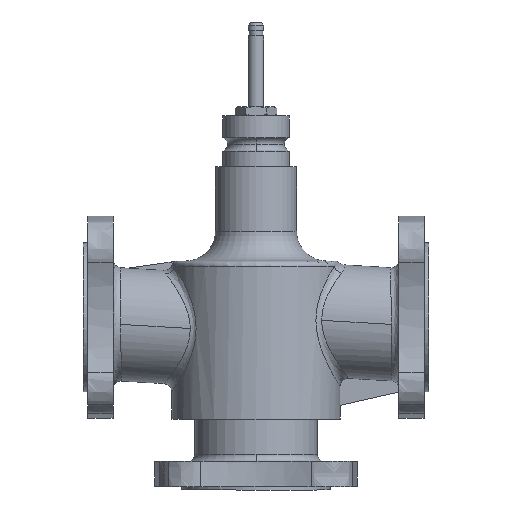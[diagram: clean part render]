
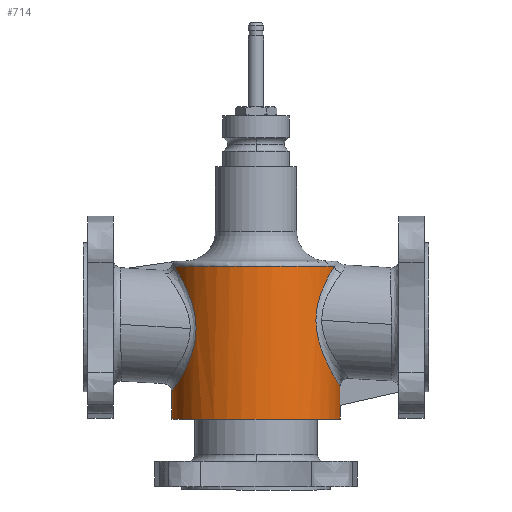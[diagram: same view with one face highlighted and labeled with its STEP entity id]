
A CAD part, front view. The second image highlights one B-rep face of the part: STEP entity #714.
In plain terms, the highlighted cylindrical face has radius 55.986 mm (diameter 111.973 mm), a partial arc.
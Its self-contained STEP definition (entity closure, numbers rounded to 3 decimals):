
#134=CYLINDRICAL_SURFACE('',#3290,55.986);
#206=FACE_OUTER_BOUND('',#1176,.T.);
#383=LINE('',#5072,#539);
#384=LINE('',#5076,#540);
#385=LINE('',#5165,#541);
#539=VECTOR('',#3715,1.);
#540=VECTOR('',#3718,1.);
#541=VECTOR('',#3735,1.);
#714=ADVANCED_FACE('',(#206),#134,.T.);
#992=B_SPLINE_CURVE_WITH_KNOTS('',3,(#5123,#5124,#5125,#5126,#5127,#5128,
#5129,#5130,#5131,#5132,#5133,#5134,#5135,#5136,#5137,#5138,#5139,#5140),
 .UNSPECIFIED.,.F.,.F.,(4,2,2,2,2,2,2,2,4),(0.,0.125,0.25,0.375,0.5,0.625,
0.75,0.875,1.),.UNSPECIFIED.);
#993=B_SPLINE_CURVE_WITH_KNOTS('',3,(#5142,#5143,#5144,#5145,#5146,#5147,
#5148,#5149,#5150,#5151,#5152,#5153,#5154,#5155,#5156,#5157,#5158,#5159,
#5160,#5161),.UNSPECIFIED.,.F.,.F.,(4,2,2,2,2,2,2,2,2,4),(0.,0.082,
0.2,0.338,0.479,0.567,
0.654,0.751,0.905,1.),.UNSPECIFIED.);
#1059=ELLIPSE('',#3289,57.388,55.986);
#1176=EDGE_LOOP('',(#1555,#1556,#1557,#1558,#1559,#1560,#1561,#1562));
#1555=ORIENTED_EDGE('',*,*,#2751,.F.);
#1556=ORIENTED_EDGE('',*,*,#2747,.F.);
#1557=ORIENTED_EDGE('',*,*,#2752,.F.);
#1558=ORIENTED_EDGE('',*,*,#2742,.F.);
#1559=ORIENTED_EDGE('',*,*,#2753,.F.);
#1560=ORIENTED_EDGE('',*,*,#2740,.F.);
#1561=ORIENTED_EDGE('',*,*,#2754,.T.);
#1562=ORIENTED_EDGE('',*,*,#2755,.T.);
#2424=VERTEX_POINT('',#5044);
#2428=VERTEX_POINT('',#5071);
#2429=VERTEX_POINT('',#5073);
#2430=VERTEX_POINT('',#5075);
#2435=VERTEX_POINT('',#5103);
#2436=VERTEX_POINT('',#5105);
#2439=VERTEX_POINT('',#5141);
#2440=VERTEX_POINT('',#5164);
#2740=EDGE_CURVE('',#2428,#2429,#383,.T.);
#2742=EDGE_CURVE('',#2430,#2424,#384,.T.);
#2747=EDGE_CURVE('',#2435,#2436,#3098,.T.);
#2751=EDGE_CURVE('',#2436,#2439,#992,.T.);
#2752=EDGE_CURVE('',#2424,#2435,#993,.T.);
#2753=EDGE_CURVE('',#2429,#2430,#3101,.T.);
#2754=EDGE_CURVE('',#2428,#2440,#1059,.T.);
#2755=EDGE_CURVE('',#2440,#2439,#385,.T.);
#3098=CIRCLE('',#3284,55.986);
#3101=CIRCLE('',#3288,55.986);
#3284=AXIS2_PLACEMENT_3D('',#5104,#3723,#3724);
#3288=AXIS2_PLACEMENT_3D('',#5162,#3731,#3732);
#3289=AXIS2_PLACEMENT_3D('',#5163,#3733,#3734);
#3290=AXIS2_PLACEMENT_3D('',#5166,#3736,#3737);
#3715=DIRECTION('',(0.,0.,-1.));
#3718=DIRECTION('',(0.,0.,1.));
#3723=DIRECTION('',(0.,0.,1.));
#3724=DIRECTION('',(1.,0.,0.));
#3731=DIRECTION('',(0.,0.,-1.));
#3732=DIRECTION('',(0.,-1.,0.));
#3733=DIRECTION('',(0.22,0.,-0.976));
#3734=DIRECTION('',(-0.976,0.,-0.22));
#3735=DIRECTION('',(0.,0.,1.));
#3736=DIRECTION('',(0.,0.,1.));
#3737=DIRECTION('',(1.,0.,0.));
#5044=CARTESIAN_POINT('',(-285.986,0.,-49.688));
#5071=CARTESIAN_POINT('',(-174.014,0.,-58.616));
#5072=CARTESIAN_POINT('',(-174.014,0.,-58.616));
#5073=CARTESIAN_POINT('',(-174.014,0.,-67.779));
#5075=CARTESIAN_POINT('',(-285.986,0.,-67.779));
#5076=CARTESIAN_POINT('',(-285.986,0.,-64.779));
#5103=CARTESIAN_POINT('',(-284.349,-13.44,34.074));
#5104=CARTESIAN_POINT('',(-230.,0.,34.074));
#5105=CARTESIAN_POINT('',(-177.89,-20.471,34.074));
#5123=CARTESIAN_POINT('',(-177.893,-20.47,34.074));
#5124=CARTESIAN_POINT('',(-179.279,-23.987,31.803));
#5125=CARTESIAN_POINT('',(-180.92,-27.114,28.974));
#5126=CARTESIAN_POINT('',(-184.23,-32.394,22.458));
#5127=CARTESIAN_POINT('',(-185.93,-34.594,18.71));
#5128=CARTESIAN_POINT('',(-188.673,-37.829,10.448));
#5129=CARTESIAN_POINT('',(-189.709,-38.874,5.865));
#5130=CARTESIAN_POINT('',(-190.331,-39.512,-3.554));
#5131=CARTESIAN_POINT('',(-189.902,-39.098,-8.376));
#5132=CARTESIAN_POINT('',(-187.998,-37.043,-17.327));
#5133=CARTESIAN_POINT('',(-186.56,-35.416,-21.513));
#5134=CARTESIAN_POINT('',(-183.462,-31.23,-29.081));
#5135=CARTESIAN_POINT('',(-181.787,-28.654,-32.499));
#5136=CARTESIAN_POINT('',(-178.686,-22.646,-38.388));
#5137=CARTESIAN_POINT('',(-177.263,-19.191,-40.876));
#5138=CARTESIAN_POINT('',(-175.08,-11.554,-44.591));
#5139=CARTESIAN_POINT('',(-174.336,-7.378,-45.797));
#5140=CARTESIAN_POINT('',(-174.11,-3.1,-46.172));
#5141=CARTESIAN_POINT('',(-174.1,-3.102,-46.183));
#5142=CARTESIAN_POINT('',(-285.986,0.,-49.688));
#5143=CARTESIAN_POINT('',(-285.986,-3.102,-49.688));
#5144=CARTESIAN_POINT('',(-285.724,-6.207,-49.296));
#5145=CARTESIAN_POINT('',(-284.5,-13.554,-47.43));
#5146=CARTESIAN_POINT('',(-283.281,-17.637,-45.556));
#5147=CARTESIAN_POINT('',(-280.054,-25.494,-40.202));
#5148=CARTESIAN_POINT('',(-277.954,-29.109,-36.535));
#5149=CARTESIAN_POINT('',(-273.88,-34.957,-27.774));
#5150=CARTESIAN_POINT('',(-271.919,-37.147,-22.665));
#5151=CARTESIAN_POINT('',(-270.117,-39.066,-13.46));
#5152=CARTESIAN_POINT('',(-269.787,-39.389,-9.784));
#5153=CARTESIAN_POINT('',(-269.999,-39.174,-2.422));
#5154=CARTESIAN_POINT('',(-270.536,-38.636,1.212));
#5155=CARTESIAN_POINT('',(-272.242,-36.767,8.418));
#5156=CARTESIAN_POINT('',(-273.472,-35.347,11.999));
#5157=CARTESIAN_POINT('',(-276.88,-30.805,20.456));
#5158=CARTESIAN_POINT('',(-279.257,-27.059,25.044));
#5159=CARTESIAN_POINT('',(-282.441,-19.833,30.83));
#5160=CARTESIAN_POINT('',(-283.52,-16.748,32.684));
#5161=CARTESIAN_POINT('',(-284.34,-13.446,34.063));
#5162=CARTESIAN_POINT('',(-230.,0.,-67.779));
#5163=CARTESIAN_POINT('',(-230.,0.,-71.224));
#5164=CARTESIAN_POINT('',(-174.1,-3.102,-58.636));
#5165=CARTESIAN_POINT('',(-174.1,-3.102,-58.636));
#5166=CARTESIAN_POINT('',(-230.,0.,-15.138));
